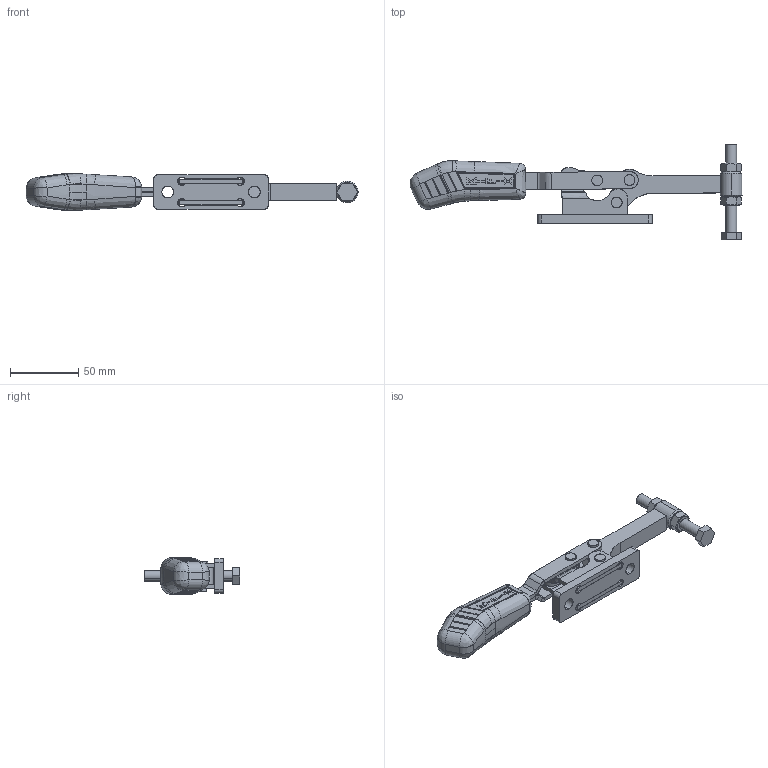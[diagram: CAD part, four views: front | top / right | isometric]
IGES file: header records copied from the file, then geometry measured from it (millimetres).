
Start section: SolidWorks IGES file using analytic representation for surfaces
Global section: file name: C:\Projetos\Grampos\KF-515\KF-515 D\KF-515 D.IGS; native system: SolidWorks 2014; preprocessor: SolidWorks 2014; author: Ricardo; date: 141030.151753; units: millimetre
Bounding box: 243.85 x 70.33 x 27.02 mm (x, y, z)
Surface area: 49262.5 mm2 (no closed solid volume)
Topology: 0 solids, 0 shells, 672 faces, 7439 edges, 7434 vertices
Faces by surface type: bspline 401, revolution 271
